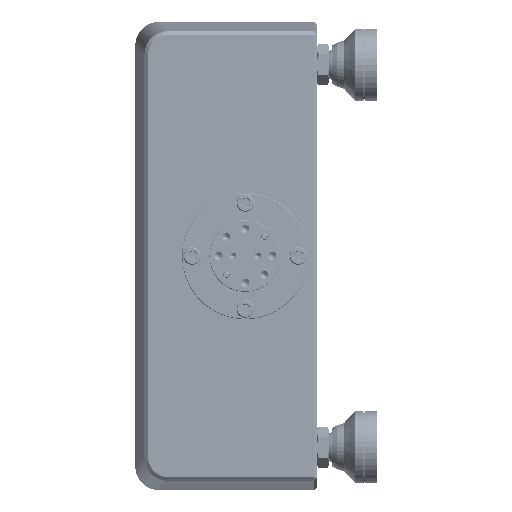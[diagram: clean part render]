
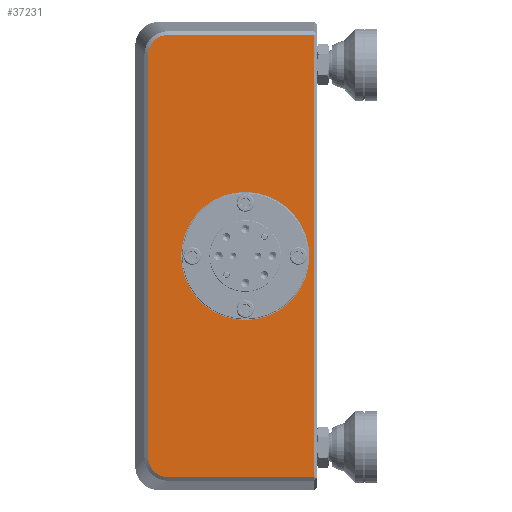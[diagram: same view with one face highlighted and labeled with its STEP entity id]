
A CAD part, left-side view. The second image highlights one B-rep face of the part: STEP entity #37231.
In plain terms, the highlighted planar face has unit normal (-1, 0, 0).
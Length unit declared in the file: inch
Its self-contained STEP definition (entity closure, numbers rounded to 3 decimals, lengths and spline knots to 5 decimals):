
#69 = CARTESIAN_POINT ( 'NONE',  ( -2.75, 3.12607, 2.31232 ) ) ;
#86 = DIRECTION ( 'NONE',  ( 0., 0., 1. ) ) ;
#440 = B_SPLINE_CURVE_WITH_KNOTS ( 'NONE', 3,
 ( #33854, #132759, #211130, #35137, #12083, #30057, #108425, #89131, #167525, #148222, #50606, #128948, #207322, #168784, #31330, #109702, #90379, #247114 ),
 .UNSPECIFIED., .F., .F.,
 ( 4, 2, 2, 2, 2, 2, 2, 2, 4 ),
 ( 0., 0.125, 0.25, 0.375, 0.5, 0.625, 0.75, 0.875, 1. ),
 .UNSPECIFIED. ) ;
#487 = ORIENTED_EDGE ( 'NONE', *, *, #208323, .T. ) ;
#2417 = LINE ( 'NONE', #22941, #16927 ) ;
#12083 = CARTESIAN_POINT ( 'NONE',  ( -2.75, 4.85051, -2.17102 ) ) ;
#14444 = CARTESIAN_POINT ( 'NONE',  ( -2.75, 4.86115, 2.11717 ) ) ;
#16057 = DIRECTION ( 'NONE',  ( 0., 0., 1. ) ) ;
#16927 = VECTOR ( 'NONE', #101291, 39.37008 ) ;
#17155 = B_SPLINE_CURVE_WITH_KNOTS ( 'NONE', 3,
 ( #132568, #248224, #208413, #166072, #186622, #167339, #244407, #150595, #246930, #112030, #70918, #127488, #205861, #149320, #50422, #228925, #14444, #128761 ),
 .UNSPECIFIED., .F., .F.,
 ( 4, 2, 2, 2, 2, 2, 2, 2, 4 ),
 ( 0., 0.125, 0.25, 0.375, 0.5, 0.625, 0.75, 0.875, 1. ),
 .UNSPECIFIED. ) ;
#20044 = ORIENTED_EDGE ( 'NONE', *, *, #209201, .T. ) ;
#22941 = CARTESIAN_POINT ( 'NONE',  ( -2.75, 4.04607, 2.31232 ) ) ;
#26117 = ORIENTED_EDGE ( 'NONE', *, *, #141092, .F. ) ;
#30057 = CARTESIAN_POINT ( 'NONE',  ( -2.75, 4.84013, -2.19623 ) ) ;
#31218 = ORIENTED_EDGE ( 'NONE', *, *, #48246, .T. ) ;
#31330 = CARTESIAN_POINT ( 'NONE',  ( -2.75, 4.70676, -2.30563 ) ) ;
#33854 = CARTESIAN_POINT ( 'NONE',  ( -2.75, 4.86115, -2.1034 ) ) ;
#34478 = CARTESIAN_POINT ( 'NONE',  ( -2.75, 4.65223, -2.31232 ) ) ;
#35137 = CARTESIAN_POINT ( 'NONE',  ( -2.75, 4.85446, -2.1579 ) ) ;
#37231 = ADVANCED_FACE ( 'NONE', ( #104157, #66843 ), #246653, .F. ) ;
#37579 = VECTOR ( 'NONE', #16057, 39.37008 ) ;
#40173 = EDGE_CURVE ( 'NONE', #123884, #83814, #243308, .T. ) ;
#41714 = EDGE_LOOP ( 'NONE', ( #31218, #240453, #20044, #487, #150868, #152111 ) ) ;
#46745 = CARTESIAN_POINT ( 'NONE',  ( -2.75, 3.84607, 0. ) ) ;
#48051 = VERTEX_POINT ( 'NONE', #166242 ) ;
#48246 = EDGE_CURVE ( 'NONE', #129891, #146230, #440, .T. ) ;
#50422 = CARTESIAN_POINT ( 'NONE',  ( -2.75, 4.85446, 2.15793 ) ) ;
#50502 = CARTESIAN_POINT ( 'NONE',  ( -2.75, 4.86115, 0. ) ) ;
#50606 = CARTESIAN_POINT ( 'NONE',  ( -2.75, 4.78, -2.26962 ) ) ;
#53035 = DIRECTION ( 'NONE',  ( 0., 0., -1. ) ) ;
#60258 = VECTOR ( 'NONE', #227891, 39.37008 ) ;
#61945 = VERTEX_POINT ( 'NONE', #223965 ) ;
#66843 = FACE_OUTER_BOUND ( 'NONE', #41714, .T. ) ;
#67868 = CARTESIAN_POINT ( 'NONE',  ( -2.75, 3.84607, 0.67 ) ) ;
#70740 = VERTEX_POINT ( 'NONE', #115548 ) ;
#70918 = CARTESIAN_POINT ( 'NONE',  ( -2.75, 4.81844, 2.23117 ) ) ;
#73833 = CARTESIAN_POINT ( 'NONE',  ( -2.75, 3.12607, 0. ) ) ;
#77570 = EDGE_CURVE ( 'NONE', #70740, #48051, #17155, .T. ) ;
#83814 = VERTEX_POINT ( 'NONE', #242685 ) ;
#88665 = DIRECTION ( 'NONE',  ( 0., 1., 0. ) ) ;
#89131 = CARTESIAN_POINT ( 'NONE',  ( -2.75, 4.81844, -2.23117 ) ) ;
#90379 = CARTESIAN_POINT ( 'NONE',  ( -2.75, 4.666, -2.31232 ) ) ;
#101291 = DIRECTION ( 'NONE',  ( 0., 1., 0. ) ) ;
#104157 = FACE_BOUND ( 'NONE', #201925, .T. ) ;
#104557 = DIRECTION ( 'NONE',  ( -1., 0., 0. ) ) ;
#107670 = VERTEX_POINT ( 'NONE', #69 ) ;
#108425 = CARTESIAN_POINT ( 'NONE',  ( -2.75, 4.83369, -2.20829 ) ) ;
#109702 = CARTESIAN_POINT ( 'NONE',  ( -2.75, 4.67966, -2.31099 ) ) ;
#111265 = EDGE_CURVE ( 'NONE', #146230, #61945, #247170, .T. ) ;
#112030 = CARTESIAN_POINT ( 'NONE',  ( -2.75, 4.80979, 2.24174 ) ) ;
#115548 = CARTESIAN_POINT ( 'NONE',  ( -2.75, 4.65223, 2.31232 ) ) ;
#116847 = ORIENTED_EDGE ( 'NONE', *, *, #40173, .F. ) ;
#123884 = VERTEX_POINT ( 'NONE', #67868 ) ;
#127488 = CARTESIAN_POINT ( 'NONE',  ( -2.75, 4.83369, 2.2083 ) ) ;
#128761 = CARTESIAN_POINT ( 'NONE',  ( -2.75, 4.86115, 2.1034 ) ) ;
#128948 = CARTESIAN_POINT ( 'NONE',  ( -2.75, 4.75712, -2.28486 ) ) ;
#129891 = VERTEX_POINT ( 'NONE', #247287 ) ;
#130155 = AXIS2_PLACEMENT_3D ( 'NONE', #167058, #145220, #88665 ) ;
#132568 = CARTESIAN_POINT ( 'NONE',  ( -2.75, 4.65223, 2.31232 ) ) ;
#132759 = CARTESIAN_POINT ( 'NONE',  ( -2.75, 4.86115, -2.11713 ) ) ;
#139772 = CIRCLE ( 'NONE', #221926, 0.67 ) ;
#141092 = EDGE_CURVE ( 'NONE', #83814, #123884, #139772, .T. ) ;
#144393 = EDGE_CURVE ( 'NONE', #48051, #129891, #230266, .T. ) ;
#145220 = DIRECTION ( 'NONE',  ( 1., 0., 0. ) ) ;
#146230 = VERTEX_POINT ( 'NONE', #34478 ) ;
#148222 = CARTESIAN_POINT ( 'NONE',  ( -2.75, 4.79057, -2.26097 ) ) ;
#149320 = CARTESIAN_POINT ( 'NONE',  ( -2.75, 4.85052, 2.17101 ) ) ;
#150595 = CARTESIAN_POINT ( 'NONE',  ( -2.75, 4.78, 2.26962 ) ) ;
#150868 = ORIENTED_EDGE ( 'NONE', *, *, #77570, .T. ) ;
#152111 = ORIENTED_EDGE ( 'NONE', *, *, #144393, .T. ) ;
#164907 = DIRECTION ( 'NONE',  ( 0., 0., 1. ) ) ;
#166072 = CARTESIAN_POINT ( 'NONE',  ( -2.75, 4.70673, 2.30563 ) ) ;
#166242 = CARTESIAN_POINT ( 'NONE',  ( -2.75, 4.86115, 2.1034 ) ) ;
#167058 = CARTESIAN_POINT ( 'NONE',  ( -2.75, 4.04607, 0. ) ) ;
#167339 = CARTESIAN_POINT ( 'NONE',  ( -2.75, 4.74506, 2.2913 ) ) ;
#167525 = CARTESIAN_POINT ( 'NONE',  ( -2.75, 4.80979, -2.24174 ) ) ;
#168784 = CARTESIAN_POINT ( 'NONE',  ( -2.75, 4.71984, -2.30169 ) ) ;
#171503 = LINE ( 'NONE', #73833, #37579 ) ;
#173484 = AXIS2_PLACEMENT_3D ( 'NONE', #46745, #104557, #164907 ) ;
#176051 = DIRECTION ( 'NONE',  ( -1., 0., 0. ) ) ;
#186622 = CARTESIAN_POINT ( 'NONE',  ( -2.75, 4.71985, 2.30168 ) ) ;
#189494 = VECTOR ( 'NONE', #53035, 39.37008 ) ;
#201925 = EDGE_LOOP ( 'NONE', ( #116847, #26117 ) ) ;
#205861 = CARTESIAN_POINT ( 'NONE',  ( -2.75, 4.84012, 2.19624 ) ) ;
#207322 = CARTESIAN_POINT ( 'NONE',  ( -2.75, 4.74507, -2.29129 ) ) ;
#208323 = EDGE_CURVE ( 'NONE', #107670, #70740, #2417, .T. ) ;
#208413 = CARTESIAN_POINT ( 'NONE',  ( -2.75, 4.67964, 2.31098 ) ) ;
#209201 = EDGE_CURVE ( 'NONE', #61945, #107670, #171503, .T. ) ;
#211130 = CARTESIAN_POINT ( 'NONE',  ( -2.75, 4.8598, -2.13082 ) ) ;
#221926 = AXIS2_PLACEMENT_3D ( 'NONE', #253161, #176051, #86 ) ;
#223965 = CARTESIAN_POINT ( 'NONE',  ( -2.75, 3.12607, -2.31232 ) ) ;
#227891 = DIRECTION ( 'NONE',  ( 0., -1., 0. ) ) ;
#228925 = CARTESIAN_POINT ( 'NONE',  ( -2.75, 4.85981, 2.13083 ) ) ;
#230266 = LINE ( 'NONE', #50502, #189494 ) ;
#240453 = ORIENTED_EDGE ( 'NONE', *, *, #111265, .T. ) ;
#242685 = CARTESIAN_POINT ( 'NONE',  ( -2.75, 3.84607, -0.67 ) ) ;
#243308 = CIRCLE ( 'NONE', #173484, 0.67 ) ;
#244407 = CARTESIAN_POINT ( 'NONE',  ( -2.75, 4.75712, 2.28486 ) ) ;
#246653 = PLANE ( 'NONE',  #130155 ) ;
#246930 = CARTESIAN_POINT ( 'NONE',  ( -2.75, 4.79056, 2.26096 ) ) ;
#247114 = CARTESIAN_POINT ( 'NONE',  ( -2.75, 4.65223, -2.31232 ) ) ;
#247170 = LINE ( 'NONE', #248454, #60258 ) ;
#247287 = CARTESIAN_POINT ( 'NONE',  ( -2.75, 4.86115, -2.1034 ) ) ;
#248224 = CARTESIAN_POINT ( 'NONE',  ( -2.75, 4.66596, 2.31232 ) ) ;
#248454 = CARTESIAN_POINT ( 'NONE',  ( -2.75, 4.04607, -2.31232 ) ) ;
#253161 = CARTESIAN_POINT ( 'NONE',  ( -2.75, 3.84607, 0. ) ) ;
